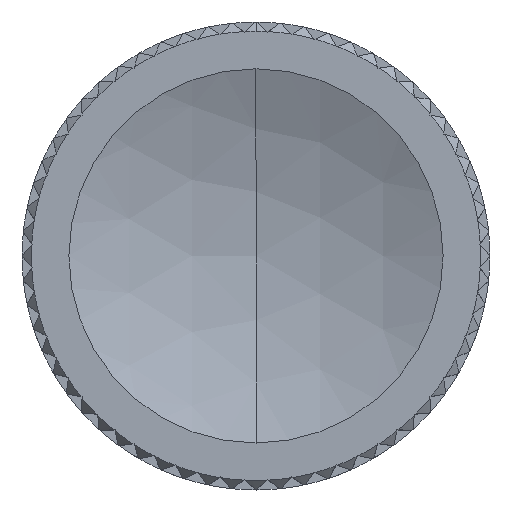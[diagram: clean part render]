
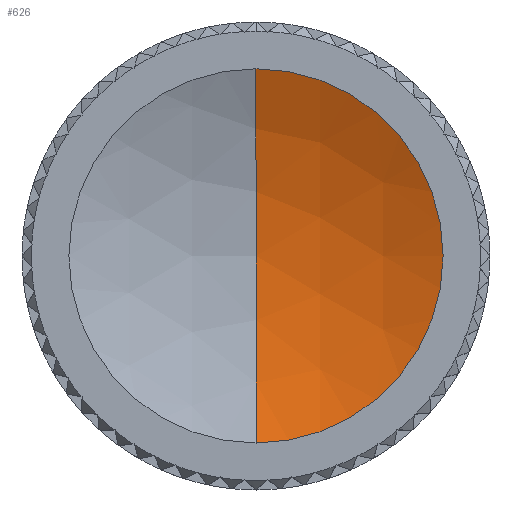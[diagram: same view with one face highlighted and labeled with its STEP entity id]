
A CAD part, top view. The second image highlights one B-rep face of the part: STEP entity #626.
In plain terms, the highlighted spherical face has radius 23.347 mm.
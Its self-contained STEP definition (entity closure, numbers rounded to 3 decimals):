
#324 = CIRCLE ( 'NONE', #9139, 23.347 ) ;
#370 = DIRECTION ( 'NONE',  ( 0., -1., 0. ) ) ;
#626 = ADVANCED_FACE ( 'NONE', ( #3419 ), #2819, .F. ) ;
#864 = EDGE_CURVE ( 'NONE', #4660, #8508, #901, .T. ) ;
#901 = CIRCLE ( 'NONE', #6865, 23.347 ) ;
#1192 = EDGE_LOOP ( 'NONE', ( #2159, #10374, #9529 ) ) ;
#1481 = AXIS2_PLACEMENT_3D ( 'NONE', #10163, #7045, #6996 ) ;
#1911 = CARTESIAN_POINT ( 'NONE',  ( 0., 0., 49.597 ) ) ;
#1968 = DIRECTION ( 'NONE',  ( -1., 0., 0. ) ) ;
#2159 = ORIENTED_EDGE ( 'NONE', *, *, #6494, .F. ) ;
#2819 = SPHERICAL_SURFACE ( 'NONE', #10397, 23.347 ) ;
#3317 = CARTESIAN_POINT ( 'NONE',  ( 0., 0., 49.597 ) ) ;
#3419 = FACE_OUTER_BOUND ( 'NONE', #1192, .T. ) ;
#3902 = DIRECTION ( 'NONE',  ( 0., 0., -1. ) ) ;
#4093 = DIRECTION ( 'NONE',  ( -1., 0., 0. ) ) ;
#4660 = VERTEX_POINT ( 'NONE', #10188 ) ;
#6494 = EDGE_CURVE ( 'NONE', #9075, #4660, #9292, .T. ) ;
#6865 = AXIS2_PLACEMENT_3D ( 'NONE', #3317, #9774, #3902 ) ;
#6996 = DIRECTION ( 'NONE',  ( 0., 1., 0. ) ) ;
#7045 = DIRECTION ( 'NONE',  ( 0., 0., -1. ) ) ;
#7264 = EDGE_CURVE ( 'NONE', #9075, #8508, #324, .T. ) ;
#8444 = CARTESIAN_POINT ( 'NONE',  ( 0., 0., 26.25 ) ) ;
#8508 = VERTEX_POINT ( 'NONE', #8444 ) ;
#8760 = DIRECTION ( 'NONE',  ( 0., -1., 0. ) ) ;
#9075 = VERTEX_POINT ( 'NONE', #10204 ) ;
#9139 = AXIS2_PLACEMENT_3D ( 'NONE', #10446, #4093, #8760 ) ;
#9292 = CIRCLE ( 'NONE', #1481, 10. ) ;
#9529 = ORIENTED_EDGE ( 'NONE', *, *, #864, .F. ) ;
#9774 = DIRECTION ( 'NONE',  ( 1., 0., 0. ) ) ;
#10163 = CARTESIAN_POINT ( 'NONE',  ( 0., 0., 28.5 ) ) ;
#10188 = CARTESIAN_POINT ( 'NONE',  ( 0., -10., 28.5 ) ) ;
#10204 = CARTESIAN_POINT ( 'NONE',  ( 0., 10., 28.5 ) ) ;
#10374 = ORIENTED_EDGE ( 'NONE', *, *, #7264, .T. ) ;
#10397 = AXIS2_PLACEMENT_3D ( 'NONE', #1911, #1968, #370 ) ;
#10446 = CARTESIAN_POINT ( 'NONE',  ( 0., 0., 49.597 ) ) ;
